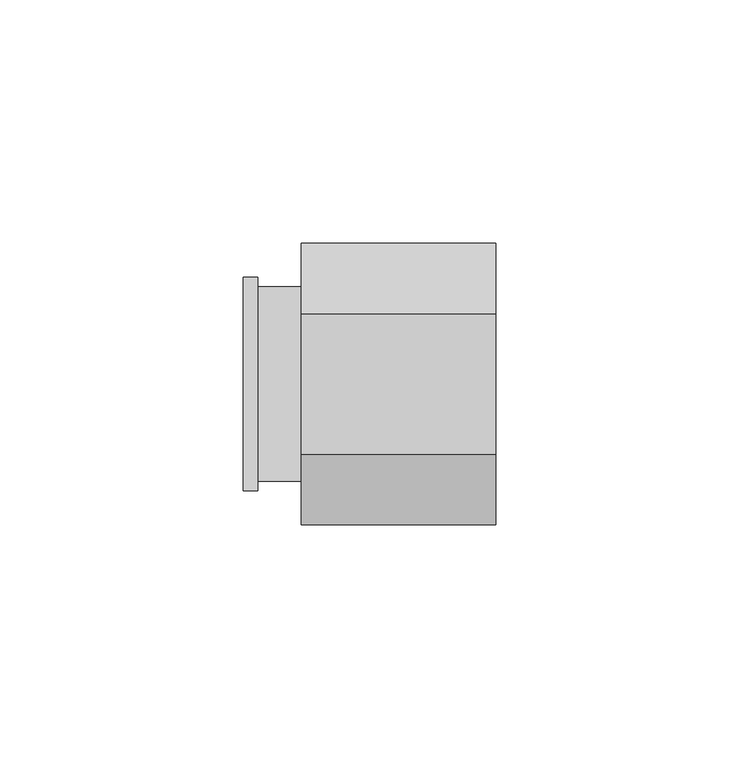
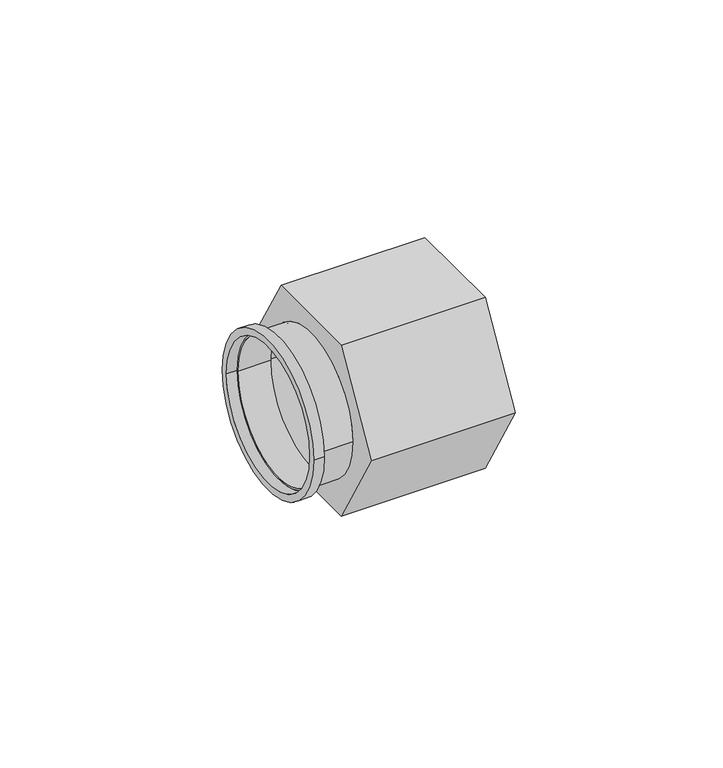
"""IFC4 building model written with IfcOpenShell, lengths in millimetres: pipe fitting geometry, БИР ПЕКС_КМП_Соединитель_Резьба_Наружная : Соединитель прямой с наружной резьбой_КМП."""

from ifc_helpers import new_model, si_unit, point, frame, origin, origin_2d, place, context, project, spatial, polyline, circle_curve, trimmed, segment, composite_curve, outline, extrude, source, transform, mapped, element, save


def pipe_fitting_f76eb3f4(model_context):
    return source(origin(), model_context, "Body", "SweptSolid", [
        extrude(outline(polyline([(-14.5, -25.1147367), (-29.0, 0.0), (-14.5, 25.1147367), (14.5, 25.1147367), (29.0, 0.0), (14.5, -25.1147367), (-14.5, -25.1147367)]), holes=[composite_curve([segment(trimmed(circle_curve(origin_2d(), 20.0), [point((-20.0, 0.0))], [point((20.0, 0.0))], True, "CARTESIAN"), True, "CONTINUOUS"), segment(trimmed(circle_curve(origin_2d(), 20.0), [point((20.0, 0.0))], [point((-20.0, 0.0))], True, "CARTESIAN"), True, "CONTINUOUS")], self_intersect=False)]), frame((0.0, 0.0, 0.0), z_axis=(1.0, 0.0, 0.0), x_axis=(0.0, 1.0, 0.0)), (0.0, 0.0, 1.0), 40.0),
        extrude(outline(composite_curve([segment(trimmed(circle_curve(origin_2d(), 20.0), [point((-20.0, 0.0))], [point((20.0, 0.0))], False, "CARTESIAN"), True, "CONTINUOUS"), segment(trimmed(circle_curve(origin_2d(), 20.0), [point((20.0, 0.0))], [point((-20.0, 0.0))], False, "CARTESIAN"), True, "CONTINUOUS")], self_intersect=False), holes=[composite_curve([segment(trimmed(circle_curve(origin_2d(), 19.5), [point((-19.5, 0.0))], [point((19.5, 0.0))], True, "CARTESIAN"), True, "CONTINUOUS"), segment(trimmed(circle_curve(origin_2d(), 19.5), [point((19.5, 0.0))], [point((-19.5, 0.0))], True, "CARTESIAN"), True, "CONTINUOUS")], self_intersect=False)]), frame((-9.0, 0.0, 0.0), z_axis=(1.0, 0.0, 0.0), x_axis=(0.0, 1.0, 0.0)), (0.0, 0.0, 1.0), 9.0),
        extrude(outline(composite_curve([segment(trimmed(circle_curve(origin_2d(), 22.0), [point((-22.0, 0.0))], [point((22.0, 0.0))], False, "CARTESIAN"), True, "CONTINUOUS"), segment(trimmed(circle_curve(origin_2d(), 22.0), [point((22.0, 0.0))], [point((-22.0, 0.0))], False, "CARTESIAN"), True, "CONTINUOUS")], self_intersect=False), holes=[composite_curve([segment(trimmed(circle_curve(origin_2d(), 20.0), [point((-20.0, 0.0))], [point((20.0, 0.0))], True, "CARTESIAN"), True, "CONTINUOUS"), segment(trimmed(circle_curve(origin_2d(), 20.0), [point((20.0, 0.0))], [point((-20.0, 0.0))], True, "CARTESIAN"), True, "CONTINUOUS")], self_intersect=False)]), frame((-12.0, 0.0, 0.0), z_axis=(1.0, 0.0, 0.0), x_axis=(0.0, 1.0, 0.0)), (0.0, 0.0, 1.0), 3.0),
    ])


if __name__ == "__main__":
    model = new_model("IFC4")
    model_context = context("Model", 3, world=origin())
    ifc_project = project(units=[si_unit("LENGTHUNIT", "METRE", prefix="MILLI")], contexts=[model_context])
    site = spatial("IfcSite", under=ifc_project)
    building = spatial("IfcBuilding", under=site)
    placement = place(None, origin())
    pipe_fitting_shape = pipe_fitting_f76eb3f4(model_context)
    element("IfcPipeFitting", 1, ObjectType="БИР ПЕКС_КМП_Соединитель_Резьба_Наружная : Соединитель прямой с наружной резьбой_КМП", at=placement, inside=building, context=model_context, shape_type="MappedRepresentation", body=[
        mapped(pipe_fitting_shape, transform((0.0, 0.0, 0.0), x_axis=(1.0, 0.0, 0.0), y_axis=(0.0, 1.0, 0.0), z_axis=(0.0, 0.0, 1.0))),
    ])
    save(model, "model.ifc")
